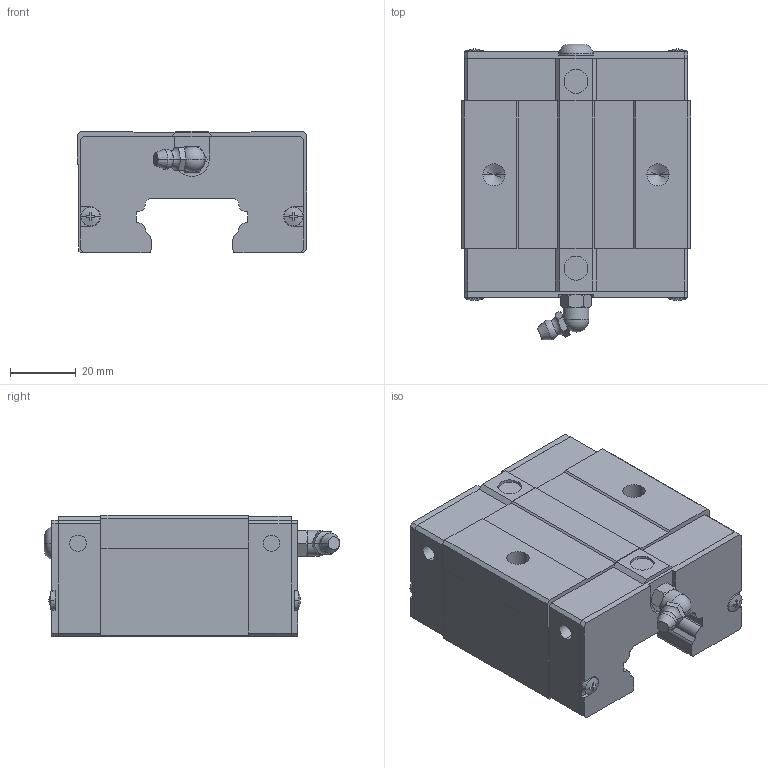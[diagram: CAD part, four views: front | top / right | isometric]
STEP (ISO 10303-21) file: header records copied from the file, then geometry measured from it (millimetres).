
FILE_DESCRIPTION(('no description'),'unknown implementation level');
FILE_NAME('EGH35SA_Z0_H_SS_34.stp',' ',('HIWIN GmbH'),('CADClick - KiM GmbH - www.kimweb.de'),'unknown preprocess','ACIS','unknown authorization');
FILE_SCHEMA(('automotive_design'));
Length unit declared in the file: millimetre
Products named in the file (1): EGH35SA Z0 H SS
Bounding box: 70 x 90.11 x 37 mm (x, y, z)
Volume: 150340.1 mm3; surface area: 25075 mm2
Topology: 1 solids, 5 shells, 340 faces, 901 edges, 581 vertices
Faces by surface type: plane 202, cylinder 76, cone 42, torus 18, sphere 2
Entity records: 20938 total; most frequent: CARTESIAN_POINT 2513, STYLED_ITEM 1817, PRESENTATION_STYLE_ASSIGNMENT 1817, COLOUR_RGB 1817, ORIENTED_EDGE 1790, DIRECTION 1684, EDGE_CURVE 895, CURVE_STYLE 895
